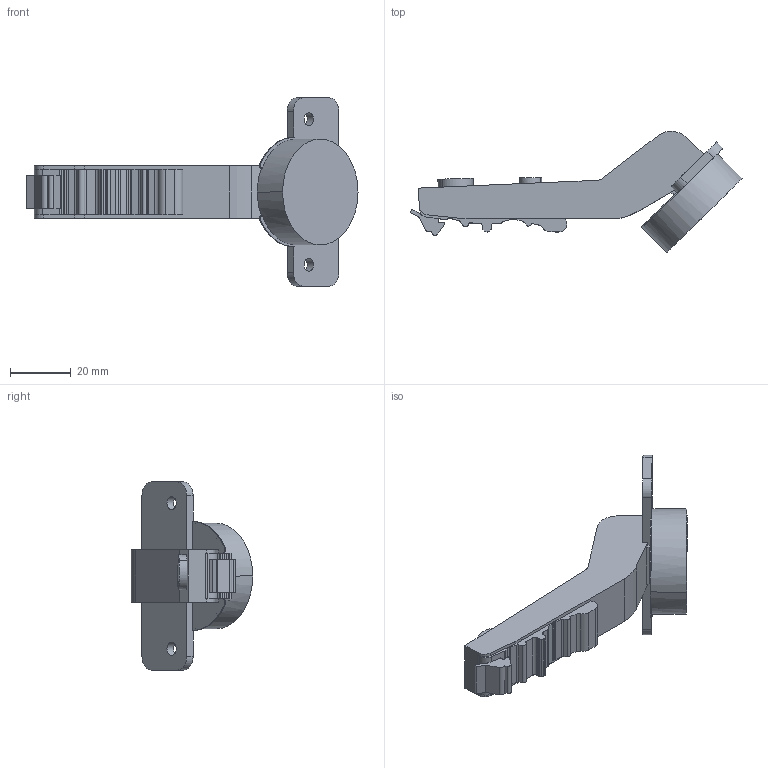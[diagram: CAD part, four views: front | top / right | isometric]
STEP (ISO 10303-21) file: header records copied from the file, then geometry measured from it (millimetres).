
FILE_DESCRIPTION (( 'STEP AP203' ), '1' );
FILE_NAME ('C82E676FA-DTC 3D close.STEP', '2024-09-06T06:36:08', ( '微软用户' ), ( '微软中国' ), 'SwSTEP 2.0', 'SolidWorks 2021', '' );
FILE_SCHEMA (( 'CONFIG_CONTROL_DESIGN' ));
Length unit declared in the file: millimetre
Products named in the file (1): C82E676FA-DTC 3D close
Bounding box: 109.36 x 40.02 x 61.96 mm (x, y, z)
Volume: 37834.5 mm3; surface area: 11561.8 mm2
Topology: 1 solids, 1 shells, 129 faces, 372 edges, 248 vertices
Faces by surface type: cylinder 65, plane 64
Entity records: 4363 total; most frequent: CARTESIAN_POINT 774, DIRECTION 752, ORIENTED_EDGE 744, EDGE_CURVE 372, AXIS2_PLACEMENT_3D 258, VERTEX_POINT 248, VECTOR 236, LINE 236
